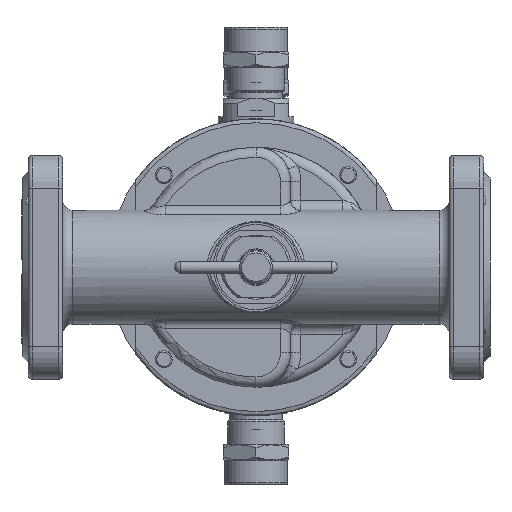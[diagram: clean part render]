
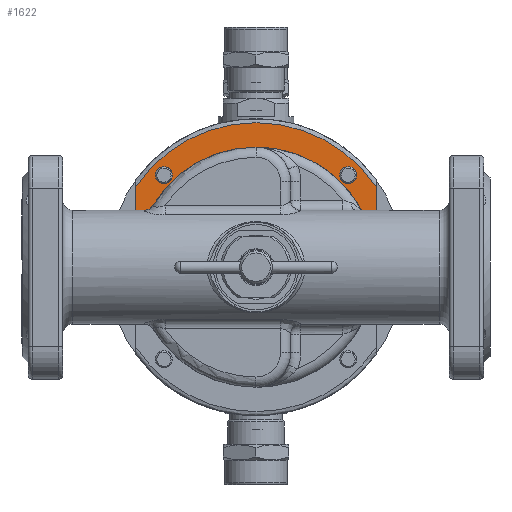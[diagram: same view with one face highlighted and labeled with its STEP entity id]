
A CAD part, front view. The second image highlights one B-rep face of the part: STEP entity #1622.
In plain terms, the highlighted planar face has unit normal (0, -1, 0).
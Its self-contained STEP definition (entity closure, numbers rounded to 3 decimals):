
#1622=ADVANCED_FACE('',(#17903,#17905,#17907),#17909,.F.);
#17903=FACE_BOUND('',#17904,.T.);
#17904=EDGE_LOOP('',(#31536));
#17905=FACE_BOUND('',#17906,.T.);
#17906=EDGE_LOOP('',(#31537));
#17907=FACE_OUTER_BOUND('',#17908,.T.);
#17908=EDGE_LOOP('',(#31538,#31539,#31540,#31541));
#17909=PLANE('',#17910);
#17910=AXIS2_PLACEMENT_3D('',#17911,#17912,#17913);
#17911=CARTESIAN_POINT('',(0.,39.5,0.));
#17912=DIRECTION('',(0.,1.,0.));
#17913=DIRECTION('',(-1.,0.,0.));
#31536=ORIENTED_EDGE('',*,*,#39906,.T.);
#31537=ORIENTED_EDGE('',*,*,#39907,.T.);
#31538=ORIENTED_EDGE('',*,*,#39905,.F.);
#31539=ORIENTED_EDGE('',*,*,#39854,.F.);
#31540=ORIENTED_EDGE('',*,*,#39908,.F.);
#31541=ORIENTED_EDGE('',*,*,#39846,.F.);
#39846=EDGE_CURVE('',#47863,#47865,#47866,.T.);
#39854=EDGE_CURVE('',#47877,#47879,#47880,.T.);
#39905=EDGE_CURVE('',#47879,#47863,#47966,.T.);
#39906=EDGE_CURVE('',#47967,#47967,#47968,.T.);
#39907=EDGE_CURVE('',#47969,#47969,#47970,.T.);
#39908=EDGE_CURVE('',#47865,#47877,#47971,.T.);
#47863=VERTEX_POINT('',#71882);
#47865=VERTEX_POINT('',#71940);
#47866=LINE('',#71941,#71942);
#47877=VERTEX_POINT('',#72075);
#47879=VERTEX_POINT('',#72079);
#47880=LINE('',#72080,#72081);
#47966=CIRCLE('',#72995,71.);
#47967=VERTEX_POINT('',#72999);
#47968=CIRCLE('',#73000,4.188);
#47969=VERTEX_POINT('',#73004);
#47970=CIRCLE('',#73005,4.188);
#47971=CIRCLE('',#73009,59.);
#71882=CARTESIAN_POINT('',(59.,39.5,39.497));
#71940=CARTESIAN_POINT('',(59.,39.5,0.));
#71941=CARTESIAN_POINT('',(59.,39.5,39.497));
#71942=VECTOR('',#71943,1.);
#71943=DIRECTION('',(0.,0.,-1.));
#72075=CARTESIAN_POINT('',(-59.,39.5,0.));
#72079=CARTESIAN_POINT('',(-59.,39.5,39.497));
#72080=CARTESIAN_POINT('',(-59.,39.5,0.));
#72081=VECTOR('',#72082,1.);
#72082=DIRECTION('',(0.,0.,1.));
#72995=AXIS2_PLACEMENT_3D('',#72996,#72997,#72998);
#72996=CARTESIAN_POINT('',(0.,39.5,0.));
#72997=DIRECTION('',(0.,1.,0.));
#72998=DIRECTION('',(-0.831,0.,0.556));
#72999=CARTESIAN_POINT('',(41.067,39.5,45.255));
#73000=AXIS2_PLACEMENT_3D('',#73001,#73002,#73003);
#73001=CARTESIAN_POINT('',(45.255,39.5,45.255));
#73002=DIRECTION('',(0.,1.,0.));
#73003=DIRECTION('',(-1.,0.,0.));
#73004=CARTESIAN_POINT('',(-49.443,39.5,45.255));
#73005=AXIS2_PLACEMENT_3D('',#73006,#73007,#73008);
#73006=CARTESIAN_POINT('',(-45.255,39.5,45.255));
#73007=DIRECTION('',(0.,1.,0.));
#73008=DIRECTION('',(-1.,0.,0.));
#73009=AXIS2_PLACEMENT_3D('',#73010,#73011,#73012);
#73010=CARTESIAN_POINT('',(0.,39.5,0.));
#73011=DIRECTION('',(0.,-1.,0.));
#73012=DIRECTION('',(1.,0.,0.));
